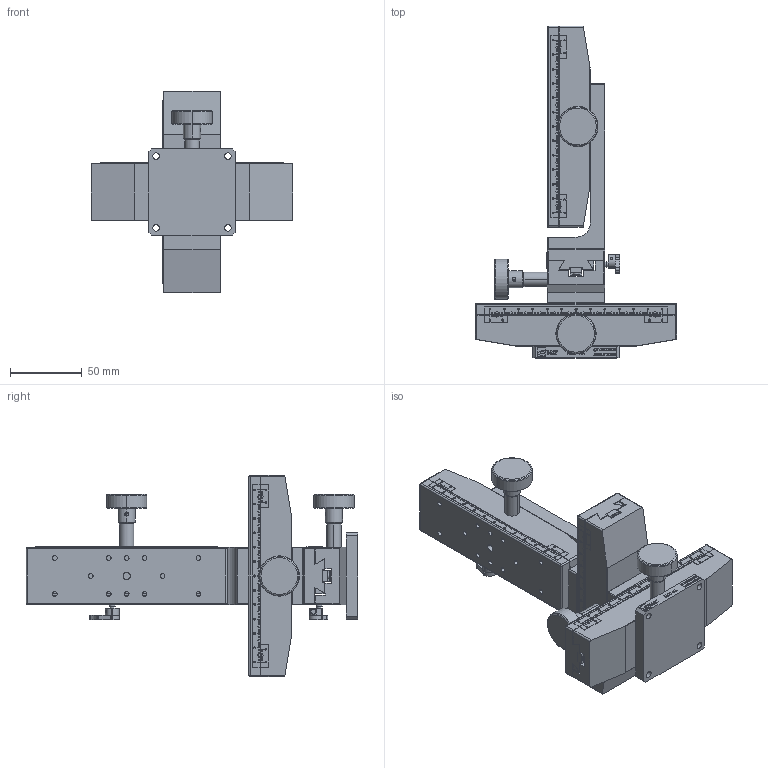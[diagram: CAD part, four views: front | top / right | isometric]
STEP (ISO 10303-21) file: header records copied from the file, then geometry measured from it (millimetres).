
FILE_DESCRIPTION (( 'STEP AP203' ), '1' );
FILE_NAME ('MCT-41L-(«¬¿ý).STEP', '2013-10-05T05:59:53', ( '' ), ( '' ), 'SwSTEP 2.0', 'SolidWorks 2013', '' );
FILE_SCHEMA (( 'CONFIG_CONTROL_DESIGN' ));
Length unit declared in the file: millimetre
Products named in the file (7): Group5^MCT-41L-(型錄); Group4^MCT-41L-(型錄); Group1^MCT-41L-(型錄); Group3^MCT-41L-(型錄); Group2^MCT-41L-(型錄); Group6^MCT-41L-(型錄); MCT-41L-(型錄)
Assembly tree (6 placements, depth 2):
  MCT-41L-(型錄)
    Group5^MCT-41L-(型錄)
    Group4^MCT-41L-(型錄)
    Group1^MCT-41L-(型錄)
    Group3^MCT-41L-(型錄)
    Group2^MCT-41L-(型錄)
    Group6^MCT-41L-(型錄)
Bounding box: 140 x 231 x 140 mm (x, y, z)
Volume: 594219.1 mm3; surface area: 158668.6 mm2
Topology: 6 solids, 6 shells, 4183 faces, 11480 edges, 7521 vertices
Faces by surface type: plane 2964, bspline 747, cylinder 268, cone 152, torus 28, sphere 24
Entity records: 183420 total; most frequent: CARTESIAN_POINT 81324, ORIENTED_EDGE 22894, DIRECTION 17587, EDGE_CURVE 11447, LINE 8889, VECTOR 8889, VERTEX_POINT 7520, EDGE_LOOP 4461
